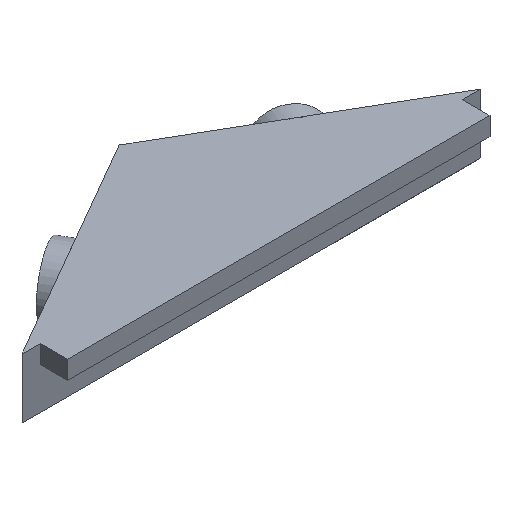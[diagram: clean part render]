
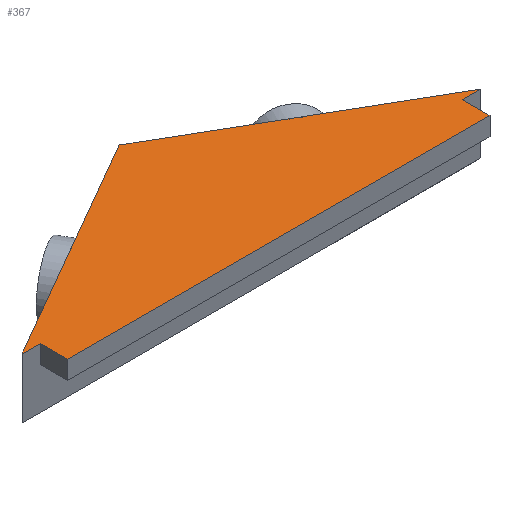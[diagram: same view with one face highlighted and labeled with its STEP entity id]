
A CAD part, isometric view. The second image highlights one B-rep face of the part: STEP entity #367.
In plain terms, the highlighted planar face has unit normal (0, 0, 1).
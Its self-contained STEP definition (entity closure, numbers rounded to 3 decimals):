
#43=FACE_OUTER_BOUND('',#63,.T.);
#63=EDGE_LOOP('',(#319,#320,#321,#322,#323,#324,#325,#326,#327));
#74=LINE('',#541,#116);
#86=LINE('',#569,#128);
#90=LINE('',#575,#132);
#93=LINE('',#585,#135);
#94=LINE('',#589,#136);
#98=LINE('',#597,#140);
#101=LINE('',#603,#143);
#105=LINE('',#610,#147);
#106=LINE('',#611,#148);
#116=VECTOR('',#440,10.);
#128=VECTOR('',#464,10.);
#132=VECTOR('',#470,10.);
#135=VECTOR('',#483,10.);
#136=VECTOR('',#486,10.);
#140=VECTOR('',#492,10.);
#143=VECTOR('',#497,10.);
#147=VECTOR('',#505,10.);
#148=VECTOR('',#506,10.);
#154=VERTEX_POINT('',#526);
#159=VERTEX_POINT('',#540);
#168=VERTEX_POINT('',#566);
#169=VERTEX_POINT('',#568);
#172=VERTEX_POINT('',#583);
#173=VERTEX_POINT('',#587);
#174=VERTEX_POINT('',#588);
#177=VERTEX_POINT('',#596);
#179=VERTEX_POINT('',#602);
#194=EDGE_CURVE('',#159,#154,#74,.T.);
#208=EDGE_CURVE('',#169,#168,#86,.T.);
#212=EDGE_CURVE('',#154,#169,#90,.T.);
#217=EDGE_CURVE('',#168,#172,#93,.T.);
#218=EDGE_CURVE('',#173,#174,#94,.T.);
#222=EDGE_CURVE('',#177,#173,#98,.T.);
#225=EDGE_CURVE('',#177,#179,#101,.T.);
#229=EDGE_CURVE('',#179,#159,#105,.T.);
#230=EDGE_CURVE('',#172,#174,#106,.T.);
#319=ORIENTED_EDGE('',*,*,#230,.T.);
#320=ORIENTED_EDGE('',*,*,#218,.F.);
#321=ORIENTED_EDGE('',*,*,#222,.F.);
#322=ORIENTED_EDGE('',*,*,#225,.T.);
#323=ORIENTED_EDGE('',*,*,#229,.T.);
#324=ORIENTED_EDGE('',*,*,#194,.T.);
#325=ORIENTED_EDGE('',*,*,#212,.T.);
#326=ORIENTED_EDGE('',*,*,#208,.T.);
#327=ORIENTED_EDGE('',*,*,#217,.T.);
#347=PLANE('',#409);
#367=ADVANCED_FACE('',(#43),#347,.T.);
#409=AXIS2_PLACEMENT_3D('',#612,#507,#508);
#440=DIRECTION('',(-0.866,0.5,0.));
#464=DIRECTION('',(-0.866,-0.5,0.));
#470=DIRECTION('',(-0.866,0.5,0.));
#483=DIRECTION('',(-0.866,-0.5,0.));
#486=DIRECTION('',(0.,1.,0.));
#492=DIRECTION('',(-1.,0.,0.));
#497=DIRECTION('',(0.,1.,0.));
#505=DIRECTION('',(1.,0.,0.));
#506=DIRECTION('',(1.,0.,0.));
#507=DIRECTION('center_axis',(0.,0.,1.));
#508=DIRECTION('ref_axis',(1.,0.,0.));
#526=CARTESIAN_POINT('',(12.124,7.434,7.));
#540=CARTESIAN_POINT('',(25.,0.,7.));
#541=CARTESIAN_POINT('',(0.,14.434,7.));
#566=CARTESIAN_POINT('',(-12.124,7.434,7.));
#568=CARTESIAN_POINT('',(0.,14.434,7.));
#569=CARTESIAN_POINT('',(-25.,0.,7.));
#575=CARTESIAN_POINT('',(0.,14.434,7.));
#583=CARTESIAN_POINT('',(-25.,0.,7.));
#585=CARTESIAN_POINT('',(-25.,0.,7.));
#587=CARTESIAN_POINT('',(-23.,-3.,7.));
#588=CARTESIAN_POINT('',(-23.,0.,7.));
#589=CARTESIAN_POINT('',(-23.,-3.,7.));
#596=CARTESIAN_POINT('',(23.,-3.,7.));
#597=CARTESIAN_POINT('',(23.,-3.,7.));
#602=CARTESIAN_POINT('',(23.,0.,7.));
#603=CARTESIAN_POINT('',(23.,-3.,7.));
#610=CARTESIAN_POINT('',(25.,0.,7.));
#611=CARTESIAN_POINT('',(25.,0.,7.));
#612=CARTESIAN_POINT('Origin',(0.,7.217,7.));
